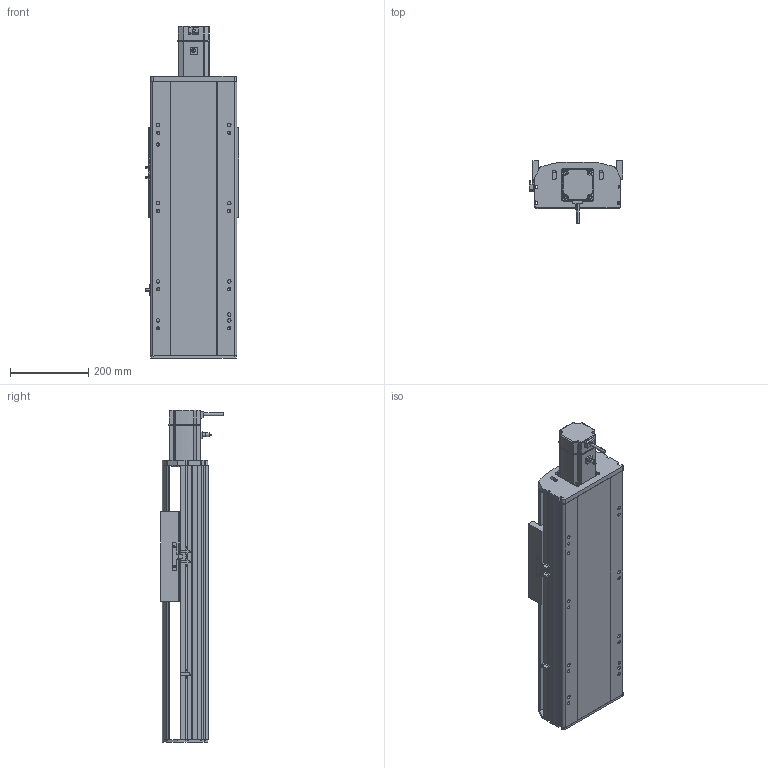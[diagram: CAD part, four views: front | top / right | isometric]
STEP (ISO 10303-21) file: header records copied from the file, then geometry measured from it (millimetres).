
FILE_DESCRIPTION (( 'STEP AP214' ), '1' );
FILE_NAME ('RTH22-XX-300-E-M75-C4.STEP', '2025-10-24T10:42:05', ( 'Microsoft' ), ( 'Microsoft' ), 'SwSTEP 2.0', 'SolidWorks 2018', '' );
FILE_SCHEMA (( 'AUTOMOTIVE_DESIGN' ));
Length unit declared in the file: millimetre
Products named in the file (9): N_RTH22-E-008萇儂啣^RTH22-XX-XX-E-M75-C4; N_RTH22-GY-013外置感应片^RTH22-XX-XX-E-M75-C4; N_RTH22-E-011菁釱^RTH22-XX-XX-E-M75-C4; N_750W萇儂^RTH22-XX-XX-E-M75-C4; N_RTH22-E-007奻裔^RTH22-XX-XX-E-M75-C4; RTH22-XX-300-E-M75-C4; N_RTH22-E-004-SFS25賑釱^RTH22-XX-XX-E-M75-C4; N_RTH22-GY-001耜裔^RTH22-XX-XX-E-M75-C4; N_OMRON EE-SX672 传感器^RTH22-XX-XX-E-M75-C4
Assembly tree (10 placements, depth 2):
  RTH22-XX-300-E-M75-C4
    N_RTH22-E-011菁釱^RTH22-XX-XX-E-M75-C4
    N_RTH22-GY-001耜裔^RTH22-XX-XX-E-M75-C4
    N_RTH22-E-008萇儂啣^RTH22-XX-XX-E-M75-C4
    N_RTH22-E-007奻裔^RTH22-XX-XX-E-M75-C4
    N_RTH22-GY-013外置感应片^RTH22-XX-XX-E-M75-C4
    N_RTH22-E-004-SFS25賑釱^RTH22-XX-XX-E-M75-C4
    N_750W萇儂^RTH22-XX-XX-E-M75-C4
    N_OMRON EE-SX672 传感器^RTH22-XX-XX-E-M75-C4  x3
Bounding box: 238.5 x 160.7 x 849 mm (x, y, z)
Volume: 11238753.6 mm3; surface area: 1201614.2 mm2
Topology: 10 solids, 10 shells, 1487 faces, 4074 edges, 2639 vertices
Faces by surface type: plane 750, cylinder 412, bspline 279, cone 46
Entity records: 36517 total; most frequent: CARTESIAN_POINT 11561, ORIENTED_EDGE 5148, DIRECTION 4780, EDGE_CURVE 2574, VERTEX_POINT 1675, LINE 1608, VECTOR 1608, AXIS2_PLACEMENT_3D 1586
